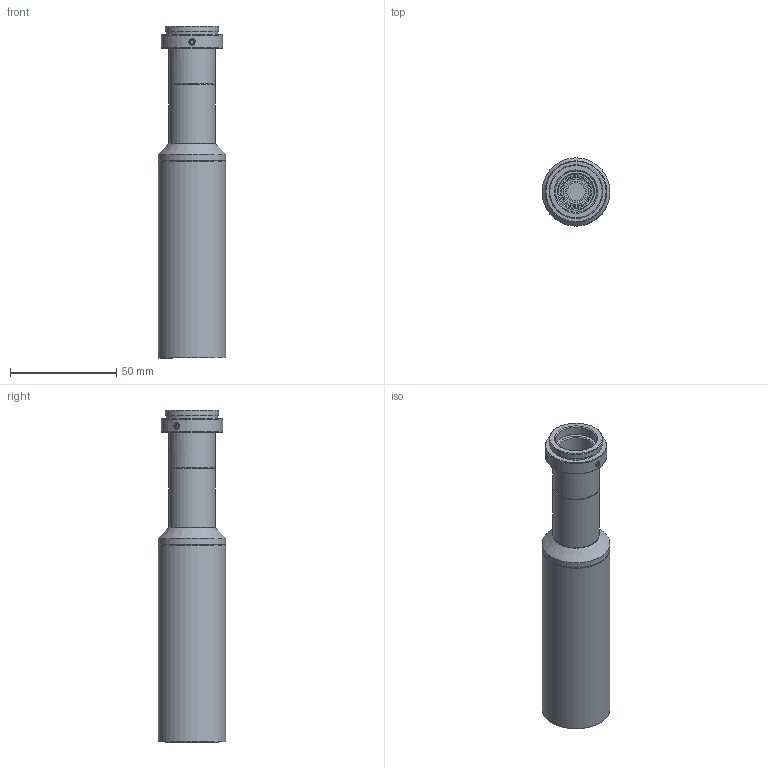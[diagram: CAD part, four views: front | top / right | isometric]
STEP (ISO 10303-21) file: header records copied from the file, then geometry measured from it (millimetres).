
FILE_DESCRIPTION(('STEP AP214'),'1');
FILE_NAME('RTK-04-130.stp','2026-07-30T09:50:32',(' '),(' '),'Spatial InterOp 3D',' ',' ');
FILE_SCHEMA(('AUTOMOTIVE_DESIGN { 1 0 10303 214 1 1 1 1 }'));
Length unit declared in the file: metre
Products named in the file (2): RTK-04-130; Component
Assembly tree (1 placements, depth 2):
  RTK-04-130
    Component
Bounding box: 32 x 32 x 156.35 mm (x, y, z)
Volume: 40737.3 mm3; surface area: 28905.5 mm2
Topology: 1 solids, 6 shells, 154 faces, 356 edges, 237 vertices
Faces by surface type: plane 59, cone 55, cylinder 35, bspline 3, sphere 2
Full cylindrical faces by diameter (mm): 2.5 x6, 8.7 x1, 10 x1, 12 x1, 12.5 x1, 13.4 x1, 14.2 x1, 15 x1, 16.4 x1, 17.2 x1, 17.4 x2, 19 x4, 19.4 x1, 22 x4, 24.12 x1, 25.32 x1, 26 x1, 26.5 x1, 29 x1, 29.4 x2, 32 x2
Entity records: 5492 total; most frequent: CARTESIAN_POINT 1158, DIRECTION 640, ORIENTED_EDGE 496, AXIS2_PLACEMENT_3D 276, EDGE_LOOP 262, EDGE_CURVE 248, VERTEX_POINT 207, FACE_OUTER_BOUND 192
